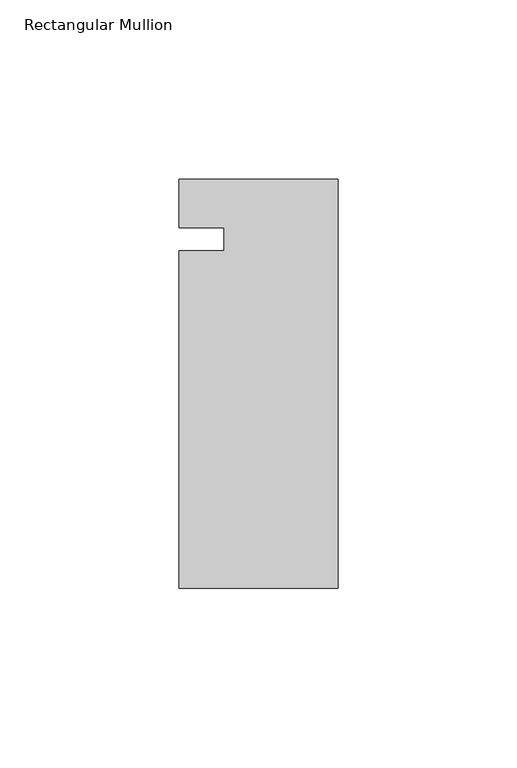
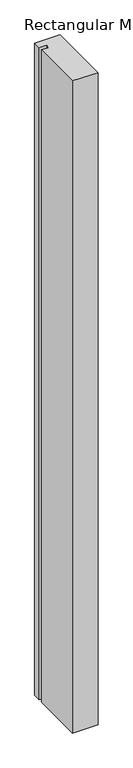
"""IFC4 building model written with IfcOpenShell, lengths in millimetres: member geometry, Rectangular Mullion : Kawneer-TRIFAB_VG_450_BACK_SB_Jamb R."""

from ifc_helpers import new_model, si_unit, frame, origin, place, context, project, spatial, polyline, outline, extrude, source, transform, mapped, element, save


def rectangular_mullion_fbd2204e(model_context):
    return source(origin(), model_context, "Body", "SweptSolid", [
        extrude(outline(polyline([(-44.45, 16.8081154), (0.0, 16.8081154), (0.0, -97.4918846), (-44.45, -97.4918846), (-44.45, -3.175), (-31.7482296, -3.175), (-31.7482296, 3.175), (-44.45, 3.175), (-44.45, 16.8081154)])), frame((0.0, 0.0, -1201.3094027), z_axis=(0.0, 0.0, 1.0), x_axis=(1.0, 0.0, 0.0)), (0.0, 0.0, 1.0), 1201.3094027),
    ])


if __name__ == "__main__":
    model = new_model("IFC4")
    model_context = context("Model", 3, world=origin())
    ifc_project = project(units=[si_unit("LENGTHUNIT", "METRE", prefix="MILLI")], contexts=[model_context])
    site = spatial("IfcSite", under=ifc_project)
    building = spatial("IfcBuilding", under=site)
    placement = place(None, origin())
    rectangular_mullion_shape = rectangular_mullion_fbd2204e(model_context)
    element("IfcMember", 1, ObjectType="Rectangular Mullion : Kawneer-TRIFAB_VG_450_BACK_SB_Jamb R", at=placement, inside=building, context=model_context, shape_type="MappedRepresentation", body=[
        mapped(rectangular_mullion_shape, transform((0.0, 0.0, 0.0), x_axis=(1.0, 0.0, 0.0), y_axis=(0.0, 1.0, 0.0), z_axis=(0.0, 0.0, 1.0))),
    ])
    save(model, "model.ifc")
